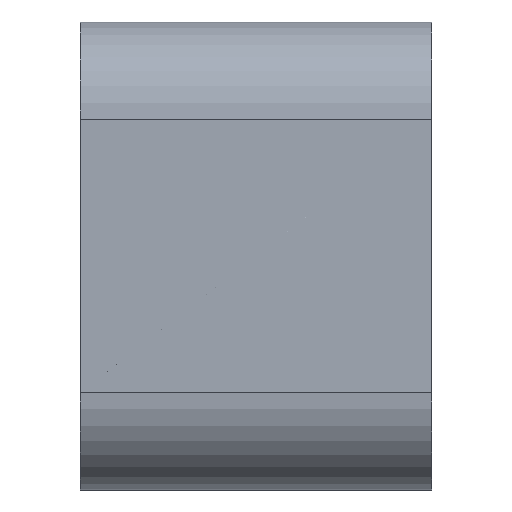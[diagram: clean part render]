
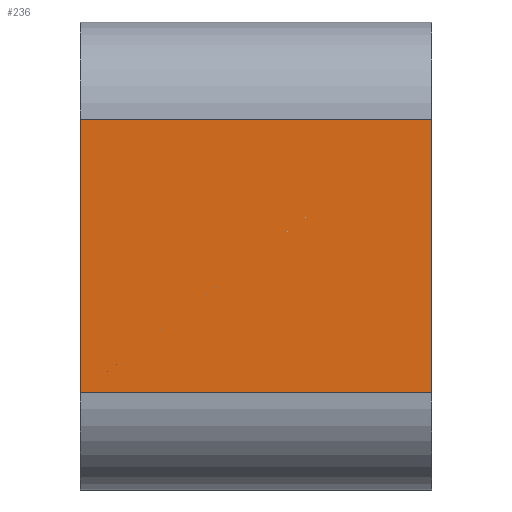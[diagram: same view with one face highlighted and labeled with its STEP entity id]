
A CAD part, left-side view. The second image highlights one B-rep face of the part: STEP entity #236.
In plain terms, the highlighted planar face has unit normal (-1, 0, 0).
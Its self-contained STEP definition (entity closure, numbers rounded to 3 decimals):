
#19 = CARTESIAN_POINT ( 'NONE',  ( -15., 9., 3.5 ) ) ;
#38 = LINE ( 'NONE', #572, #422 ) ;
#73 = PLANE ( 'NONE',  #254 ) ;
#107 = CARTESIAN_POINT ( 'NONE',  ( -15., 9., -6. ) ) ;
#122 = ORIENTED_EDGE ( 'NONE', *, *, #587, .T. ) ;
#126 = LINE ( 'NONE', #163, #490 ) ;
#163 = CARTESIAN_POINT ( 'NONE',  ( -15., 9., -6. ) ) ;
#184 = VECTOR ( 'NONE', #205, 1000. ) ;
#200 = CARTESIAN_POINT ( 'NONE',  ( -15., 9., -3.5 ) ) ;
#202 = LINE ( 'NONE', #19, #184 ) ;
#205 = DIRECTION ( 'NONE',  ( 0., 1., 0. ) ) ;
#213 = CARTESIAN_POINT ( 'NONE',  ( -15., 0., 3.5 ) ) ;
#216 = DIRECTION ( 'NONE',  ( 0., 0., 1. ) ) ;
#236 = ADVANCED_FACE ( 'NONE', ( #386 ), #73, .F. ) ;
#254 = AXIS2_PLACEMENT_3D ( 'NONE', #107, #530, #471 ) ;
#302 = VERTEX_POINT ( 'NONE', #213 ) ;
#304 = DIRECTION ( 'NONE',  ( 0., 0., 1. ) ) ;
#323 = ORIENTED_EDGE ( 'NONE', *, *, #485, .F. ) ;
#354 = ORIENTED_EDGE ( 'NONE', *, *, #448, .T. ) ;
#361 = VERTEX_POINT ( 'NONE', #464 ) ;
#386 = FACE_OUTER_BOUND ( 'NONE', #605, .T. ) ;
#422 = VECTOR ( 'NONE', #216, 1000. ) ;
#448 = EDGE_CURVE ( 'NONE', #361, #302, #38, .T. ) ;
#464 = CARTESIAN_POINT ( 'NONE',  ( -15., 0., -3.5 ) ) ;
#471 = DIRECTION ( 'NONE',  ( 0., 0., -1. ) ) ;
#480 = LINE ( 'NONE', #610, #538 ) ;
#485 = EDGE_CURVE ( 'NONE', #486, #516, #126, .T. ) ;
#486 = VERTEX_POINT ( 'NONE', #200 ) ;
#490 = VECTOR ( 'NONE', #304, 1000. ) ;
#516 = VERTEX_POINT ( 'NONE', #621 ) ;
#520 = EDGE_CURVE ( 'NONE', #302, #516, #202, .T. ) ;
#530 = DIRECTION ( 'NONE',  ( 1., 0., 0. ) ) ;
#535 = ORIENTED_EDGE ( 'NONE', *, *, #520, .T. ) ;
#538 = VECTOR ( 'NONE', #553, 1000. ) ;
#553 = DIRECTION ( 'NONE',  ( 0., -1., 0. ) ) ;
#572 = CARTESIAN_POINT ( 'NONE',  ( -15., 0., -6. ) ) ;
#587 = EDGE_CURVE ( 'NONE', #486, #361, #480, .T. ) ;
#605 = EDGE_LOOP ( 'NONE', ( #323, #122, #354, #535 ) ) ;
#610 = CARTESIAN_POINT ( 'NONE',  ( -15., 9., -3.5 ) ) ;
#621 = CARTESIAN_POINT ( 'NONE',  ( -15., 9., 3.5 ) ) ;
